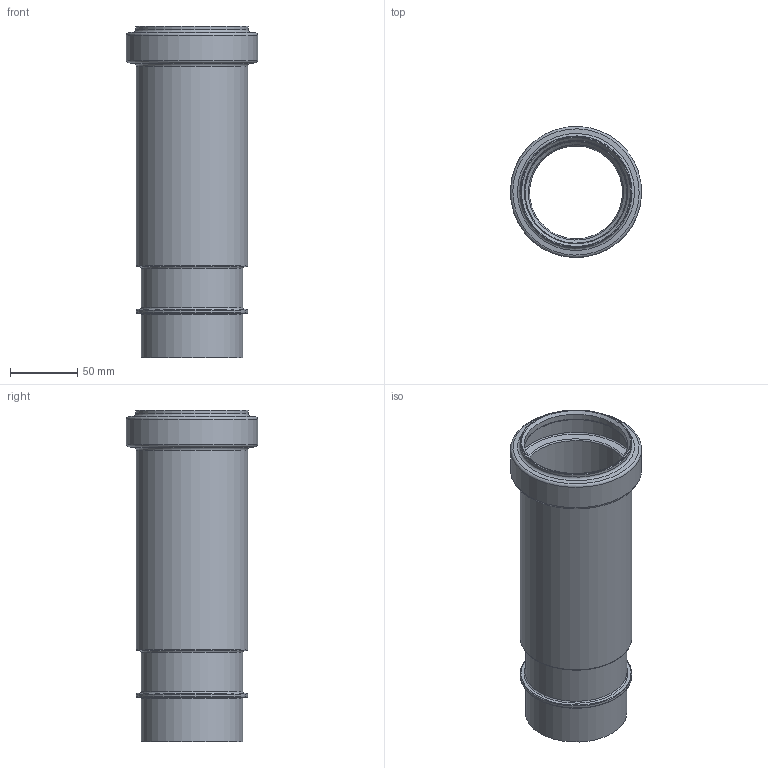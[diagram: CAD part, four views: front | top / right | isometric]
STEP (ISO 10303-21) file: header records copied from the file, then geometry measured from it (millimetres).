
FILE_DESCRIPTION(/* description */ (''),/* implementation_level */ '2;1');
FILE_NAME(/* name */ 'C:\Planerdaten\Export PLA\365.700.16.1\stp\365700.stp',/* time_stamp */ '2020-07-07T08:50:09+02:00',/* author */ ('JANAN'),/* organization */ (''),/* preprocessor_version */ 'ST-DEVELOPER v16.13',/* originating_system */ 'Autodesk Inventor 2018',/* authorisation */ '');
FILE_SCHEMA (('AUTOMOTIVE_DESIGN { 1 0 10303 214 3 1 1 }'));
Length unit declared in the file: millimetre
Products named in the file (1): Langmuffe m/Doppelbund PE-HD d75
Bounding box: 97.47 x 97.47 x 246.33 mm (x, y, z)
Volume: 208637.8 mm3; surface area: 131870 mm2
Topology: 1 solids, 1 shells, 38 faces, 85 edges, 49 vertices
Faces by surface type: torus 17, cylinder 10, cone 9, plane 2
Full cylindrical faces by diameter (mm): 69.05 x1, 75.35 x2, 76.6 x1, 76.975 x1, 82.9 x2, 83.275 x1, 91.2 x1, 97.5 x1
Entity records: 839 total; most frequent: DIRECTION 154, CARTESIAN_POINT 115, AXIS2_PLACEMENT_3D 77, EDGE_LOOP 76, ORIENTED_EDGE 76, STYLED_ITEM 39, FACE_BOUND 38, FACE_OUTER_BOUND 38
